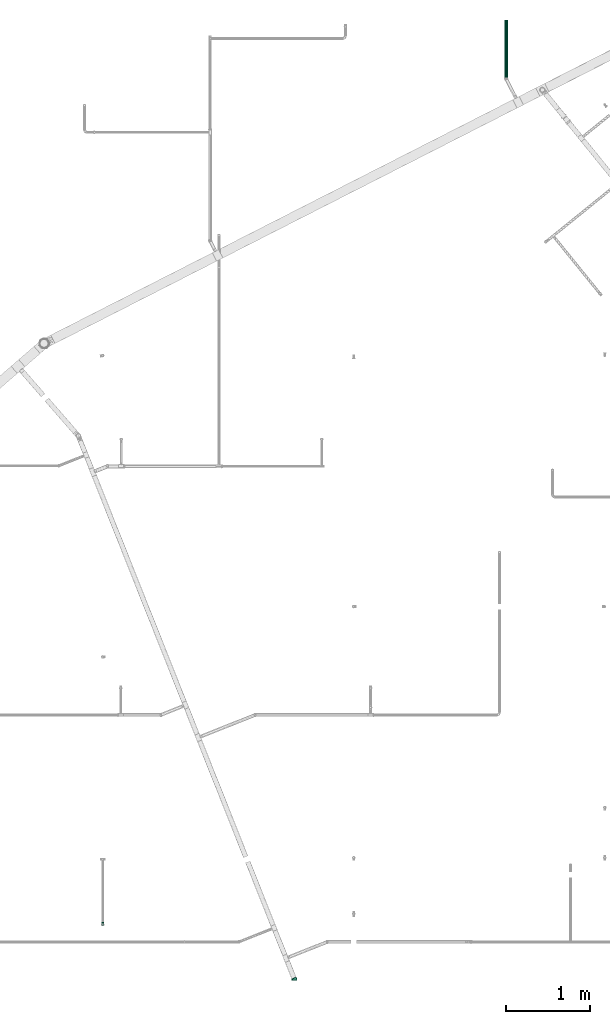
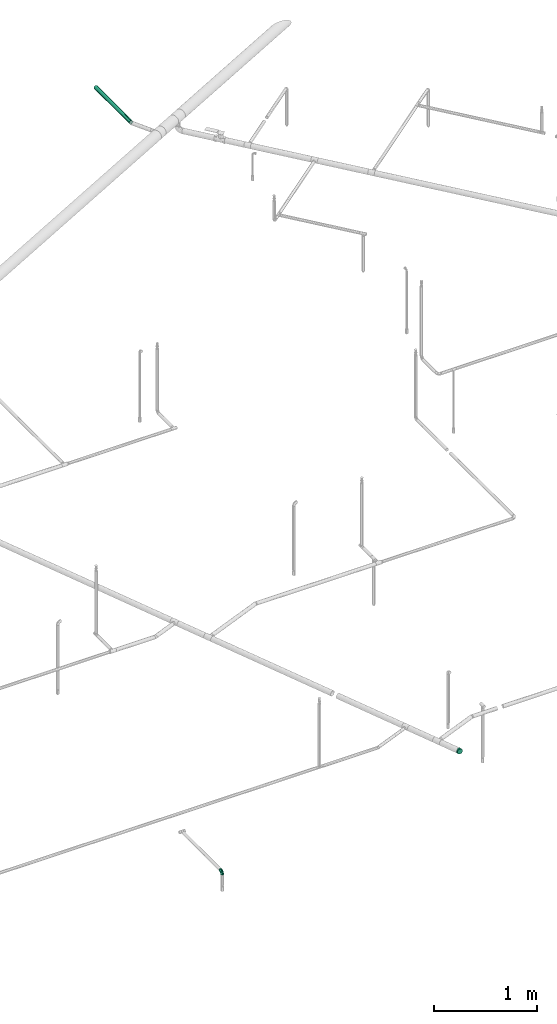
# One storey, part 92 of 94: 2 flow fittings, 1 flow segment.
"""IFC2X3 building model written with IfcOpenShell, lengths in millimetres."""

from ifc_helpers import new_model, entity, si_unit, converted_unit, derived_unit, direction, frame, origin_with_axes, place, context, subcontext, project, spatial, open_shell, faceted_brep, surface_model, source, transform, mapped, type_object, element, save


model = new_model("IFC2X3")

# Units and contexts
model_context = context("Model", 3, precision=0.01, world=frame((0.0, 4.29681676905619e-09, 0.0)), true_north=direction((4.01073788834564e-13, 1.0)))
plan_context = context("Plan", 3, precision=0.01, world=frame((0.0, 4.29681676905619e-09, 0.0)), true_north=direction((4.01073788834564e-13, 1.0)))
body_context = subcontext(model_context, "Body", "Model", "MODEL_VIEW")
ifc_project = project(units=[converted_unit("PLANEANGLEUNIT", "DEGREE", entity("IfcPositiveLengthMeasure", 0.0174532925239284), si_unit("PLANEANGLEUNIT", "RADIAN"), dimensions=[0, 0, 0, 0, 0, 0, 0]), si_unit("AREAUNIT", "SQUARE_METRE"), si_unit("LENGTHUNIT", "METRE", prefix="MILLI"), si_unit("MASSUNIT", "GRAM", prefix="KILO"), si_unit("POWERUNIT", "WATT"), si_unit("PRESSUREUNIT", "PASCAL", prefix="KILO"), si_unit("FORCEUNIT", "NEWTON", prefix="KILO"), si_unit("ELECTRICVOLTAGEUNIT", "VOLT"), si_unit("ELECTRICCURRENTUNIT", "AMPERE"), si_unit("THERMODYNAMICTEMPERATUREUNIT", "DEGREE_CELSIUS"), si_unit("TIMEUNIT", "SECOND"), si_unit("VOLUMEUNIT", "CUBIC_METRE"), derived_unit("LINEARVELOCITYUNIT", [(si_unit("LENGTHUNIT", "METRE"), 1), (si_unit("TIMEUNIT", "SECOND"), -1)]), derived_unit("VOLUMETRICFLOWRATEUNIT", [(si_unit("VOLUMEUNIT", "CUBIC_METRE"), 1), (si_unit("TIMEUNIT", "SECOND"), -1)]), derived_unit("THERMALTRANSMITTANCEUNIT", [(si_unit("POWERUNIT", "WATT"), 1), (si_unit("THERMODYNAMICTEMPERATUREUNIT", "KELVIN"), -1), (si_unit("AREAUNIT", "SQUARE_METRE"), -1)]), derived_unit("SOUNDPRESSUREUNIT", [(si_unit("PRESSUREUNIT", "PASCAL"), 1)])], contexts=[model_context, plan_context])

# Site, building, storey
site_placement = place(None, frame((0.0, -4.29681676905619e-09, 0.0), z_axis=(0.0, 0.0, 1.0), x_axis=(1.0, 0.0, 0.0)))
site = spatial("IfcSite", under=ifc_project, at=site_placement, CompositionType="ELEMENT")
building_placement = place(site_placement, frame((0.0, 4.29681676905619e-09, 0.0), z_axis=(0.0, 0.0, 1.0), x_axis=(1.0, 0.0, 0.0)))
building = spatial("IfcBuilding", under=site, at=building_placement, Name="mc-building", CompositionType="ELEMENT")
storey_placement = place(building_placement, frame((0.0, 0.0, 210900.0), z_axis=(0.0, 0.0, 1.0), x_axis=(1.0, 0.0, 0.0)))
storey = spatial("IfcBuildingStorey", under=building, at=storey_placement, Name="Nivå F", CompositionType="ELEMENT", Elevation=210900.0)

# Flow fittings
pipe_fitting_type = type_object("IfcPipeFittingType", Name="magi_pipe_fe_elbow_short_001", PredefinedType="BEND")
shared_shape_1 = source(origin_with_axes(), body_context, "Body", "SurfaceModel", [
    surface_model("IfcShellBasedSurfaceModel", [(-11.56663, 15.1, -26.15397), (-11.56663, 7.81634, -29.17096), (-11.56663, 0.0, -30.2), (-11.56663, -29.17096, -7.81634), (-11.56663, -21.35462, 21.35462), (-11.56663, 29.17096, -7.81634), (-11.56663, 26.15397, -15.1), (-11.56663, 21.35462, -21.35462), (-11.56663, -15.1, -26.15397), (-11.56663, -21.35462, -21.35462), (-11.56663, -7.81634, -29.17096), (-11.56663, -26.15397, -15.1), (-11.56663, -30.2, 0.0), (-11.56663, -29.17096, 7.81634), (-11.56663, 30.2, 0.0), (-11.56663, 29.17096, 7.81634), (-11.56663, 26.15397, 15.1), (-11.56663, 7.81634, 29.17096), (-11.56663, 15.1, 26.15397), (-11.56663, 21.35462, 21.35462), (-11.56663, -26.15397, 15.1), (-11.56663, -7.81634, 29.17096), (-11.56663, 0.0, 30.2), (-11.56663, -15.1, 26.15397), (10.74829, 4.27332, -30.2), (7.86053, 11.53665, -29.17096), (5.16956, 18.30499, -26.15397), (20.41094, -20.03025, -15.1), (2.85877, 24.1171, -21.35462), (1.08564, 28.57688, -15.1), (-0.02899, 31.38042, -7.81634), (16.32702, -9.75835, -26.15397), (18.63781, -15.57046, -21.35462), (13.63605, -2.99001, -29.17096), (18.63781, -15.57046, 21.35462), (21.52557, -22.83379, -7.81634), (21.52557, -22.83379, 7.81634), (21.90575, -23.79002, 0.0), (-0.40917, 32.33666, 0.0), (-0.02899, 31.38042, 7.81634), (1.08564, 28.57688, 15.1), (7.86053, 11.53665, 29.17096), (2.85877, 24.1171, 21.35462), (5.16956, 18.30499, 26.15397), (20.41094, -20.03025, 15.1), (16.32702, -9.75835, 26.15397), (10.74829, 4.27332, 30.2), (13.63605, -2.99001, 29.17096), (3.31312, -17.30084, 23.70386), (3.21272, -22.90725, 18.05571), (5.07472, -26.49975, 11.11846), (2.03435, -10.6232, 27.75071), (0.60177, -3.14239, 29.89273), (-0.88629, 4.62811, 29.9829), (-5.88653, 30.73897, 0.0), (0.57449, -28.84288, 5.65949), (5.47368, -28.58308, 0.0), (0.60177, -3.14239, -29.89273), (2.03435, -10.6232, -27.75071), (5.47772, -22.4735, -18.05571), (5.07472, -26.49975, -11.11846), (-0.88629, 4.62811, -29.9829), (3.31312, -17.30084, -23.70386), (10.12223, -27.01448, -5.65949)], [open_shell([[[0, 1, 2]], [[2, 3, 4]], [[0, 5, 6]], [[7, 0, 6]], [[2, 4, 0]], [[8, 9, 10]], [[9, 2, 10]], [[11, 3, 9]], [[9, 3, 2]], [[12, 13, 3]], [[5, 0, 4]], [[14, 4, 15]], [[16, 15, 17]], [[17, 18, 19]], [[16, 17, 19]], [[17, 15, 4]], [[20, 4, 13]], [[13, 4, 3]], [[21, 22, 23]], [[17, 4, 23]], [[17, 23, 22]], [[14, 5, 4]], [[24, 25, 26]], [[27, 24, 26]], [[28, 29, 30]], [[28, 30, 26]], [[27, 26, 30]], [[31, 27, 32]], [[27, 31, 33]], [[24, 27, 33]], [[27, 34, 35]], [[35, 36, 37]], [[34, 27, 30]], [[38, 39, 40]], [[38, 40, 41]], [[42, 43, 41]], [[42, 41, 40]], [[38, 41, 34]], [[36, 34, 44]], [[35, 34, 36]], [[45, 46, 47]], [[45, 34, 41]], [[46, 45, 41]], [[34, 30, 38]], [[48, 4, 49]], [[23, 4, 48]], [[4, 20, 49]], [[36, 44, 50]], [[20, 50, 49]], [[21, 23, 51]], [[48, 51, 23]], [[22, 21, 52]], [[22, 53, 17]], [[44, 49, 50]], [[50, 20, 13]], [[34, 45, 48]], [[16, 19, 40]], [[18, 42, 19]], [[47, 46, 52]], [[51, 52, 21]], [[46, 41, 53]], [[54, 15, 39]], [[55, 50, 13]], [[54, 14, 15]], [[39, 15, 16]], [[12, 55, 13]], [[43, 18, 17]], [[52, 53, 22]], [[12, 56, 55]], [[45, 47, 51]], [[52, 51, 47]], [[45, 51, 48]], [[53, 52, 46]], [[34, 48, 49]], [[34, 49, 44]], [[56, 37, 36]], [[40, 39, 16]], [[38, 54, 39]], [[43, 17, 41]], [[18, 43, 42]], [[40, 19, 42]], [[17, 53, 41]], [[36, 50, 55]], [[36, 55, 56]], [[2, 57, 10]], [[58, 57, 33]], [[11, 59, 60]], [[2, 1, 61]], [[28, 7, 6]], [[62, 58, 31]], [[7, 28, 0]], [[63, 60, 35]], [[5, 30, 6]], [[32, 27, 59]], [[57, 61, 24]], [[0, 25, 1]], [[56, 12, 3]], [[3, 60, 63]], [[62, 9, 8]], [[3, 63, 56]], [[3, 11, 60]], [[11, 9, 59]], [[58, 8, 10]], [[5, 14, 54]], [[54, 38, 30]], [[58, 10, 57]], [[30, 29, 6]], [[28, 6, 29]], [[9, 62, 59]], [[0, 26, 25]], [[62, 8, 58]], [[27, 60, 59]], [[0, 28, 26]], [[57, 2, 61]], [[24, 61, 25]], [[58, 33, 31]], [[25, 61, 1]], [[37, 63, 35]], [[62, 31, 32]], [[27, 35, 60]], [[37, 56, 63]], [[32, 59, 62]], [[33, 57, 24]], [[5, 54, 30]]])]),
])
flow_fitting_1_placement = place(storey_placement, frame((721289.97794, 434750.22337, 3600.0), z_axis=(0.0, 0.0, 1.0), x_axis=(0.0, 1.0, 0.0)))
element("IfcFlowFitting", 1, at=flow_fitting_1_placement, inside=storey, type_object=pipe_fitting_type, Name="magi_pipe_fe_elbow_short_001", context=body_context, shape_type="MappedRepresentation", body=[
    mapped(shared_shape_1, transform((0.0, 0.0, 0.0), scale=1.0)),
])
shared_shape_2 = source(origin_with_axes(), body_context, "Body", "SurfaceModel", [
    surface_model("IfcShellBasedSurfaceModel", [(-33.8016, 4.37404, -16.32415), (-33.8016, 0.0, -16.9), (-33.8016, 11.9501, -11.9501), (-33.8016, 8.45, -14.63583), (-33.8016, 16.32415, -4.37404), (-33.8016, 14.63583, -8.45), (-33.8016, -14.63583, -8.45), (-33.8016, -16.32415, -4.37404), (-33.8016, -8.45, 14.63583), (-33.8016, -11.9501, -11.9501), (-33.8016, -8.45, -14.63583), (-33.8016, -4.37404, -16.32415), (-33.8016, -16.9, 0.0), (-33.8016, -16.32415, 4.37404), (-33.8016, 11.9501, 11.9501), (-33.8016, 16.32415, 4.37404), (-33.8016, 14.63583, 8.45), (-33.8016, 4.37404, 16.32415), (-33.8016, 8.45, 14.63583), (-33.8016, -14.63583, 8.45), (-33.8016, -11.9501, 11.9501), (-33.8016, -4.37404, 16.32415), (-33.8016, 0.0, 16.9), (-33.8016, 16.9, 0.0), (-4.37564, 33.80139, -16.32415), (14.63423, 33.80229, -8.45), (-0.0016, 33.8016, -16.9), (-8.4516, 33.8012, -14.63583), (16.32255, 33.80237, 4.37404), (-11.9517, 33.80103, -11.9501), (-14.63743, 33.80091, -8.45), (-16.32575, 33.80083, -4.37404), (8.4484, 33.802, -14.63583), (11.94851, 33.80217, -11.9501), (4.37244, 33.80181, -16.32415), (16.8984, 33.8024, 0.0), (16.32255, 33.80237, -4.37404), (-16.32575, 33.80083, 4.37404), (8.4484, 33.802, 14.63583), (-16.9016, 33.8008, 0.0), (-11.9517, 33.80103, 11.9501), (-14.63743, 33.80091, 8.45), (-8.4516, 33.8012, 14.63583), (-4.37564, 33.80139, 16.32415), (14.63423, 33.80229, 8.45), (11.94851, 33.80217, 11.9501), (-0.0016, 33.8016, 16.9), (4.37244, 33.80181, 16.32415), (-24.79558, -13.12948, 9.48719), (-22.19451, -9.75022, 12.59313), (-24.1003, -14.97023, 0.0), (-14.94109, -10.76264, 8.52967), (-22.46259, -14.75053, 5.27074), (14.74946, 22.46329, 5.27074), (11.92453, 13.2412, 4.33239), (13.03978, 14.39961, 0.0), (7.71323, 13.69038, 11.55887), (9.74917, 22.19497, 12.59313), (4.10088, 13.05838, 14.04013), (-24.84166, -6.39065, 15.20479), (-25.81912, -2.23878, 16.61096), (-23.66688, 2.59055, 16.8712), (-26.50568, 14.06513, 11.08155), (-24.21386, 17.66377, 7.72664), (-29.58657, 15.8696, 7.00286), (-6.17472, -7.54496, 0.0), (-13.24064, -11.92516, 4.33239), (-14.399, -13.04046, 0.0), (-17.81531, 18.87432, 11.9711), (-6.30984, 29.15246, 15.82989), (-2.3174, 25.28137, 16.85849), (-29.24055, 10.23436, 13.77056), (-1.45586, -2.8571, 7.61424), (-0.28374, 0.3494, 10.09466), (-5.74578, -4.04687, 10.41192), (-4.4122, 11.32024, 16.59408), (-8.39836, 3.10041, 15.78109), (-1.72757, 9.13126, 15.53089), (-17.40038, 24.75392, 7.64984), (-26.19398, 20.05129, 0.0), (-28.14669, 17.29661, 4.25853), (-26.05301, 6.62809, 15.96448), (-5.87435, 16.62017, 16.8697), (-12.51905, 12.51846, 16.4894), (-10.06386, 7.38553, 16.81292), (-3.01956, 3.01942, 13.81705), (-13.05818, -4.1015, 14.04013), (-16.82664, -0.15154, 16.38035), (10.76194, 14.9416, 8.52967), (13.12831, 24.7962, 9.48719), (6.38947, 24.84196, 15.20479), (2.23756, 25.81922, 16.61096), (-13.69001, -7.71387, 11.55887), (14.96909, 24.10101, 0.0), (-7.31009, 22.90078, 16.09491), (-10.68082, 26.17512, 14.00802), (-12.78419, 18.26978, 15.06064), (-13.88672, 22.45314, 12.93246), (-18.05068, 15.16532, 14.04434), (-23.11799, 20.08192, 4.02988), (-21.85121, 21.85018, 0.0), (-18.55963, 25.48301, 3.9307), (-13.95268, 26.94823, 11.03291), (-18.57221, 7.23925, 16.59757), (-16.58438, 4.1413, 16.89278), (-17.96763, 11.46746, 15.63154), (-9.84564, 17.54367, 16.1894), (0.15074, 16.82665, 16.38035), (-23.27321, 11.47213, 14.2316), (3.84753, 5.87129, 10.70501), (-8.02275, -7.54424, 7.93253), (1.00257, -2.1948, 4.57308), (5.13044, 3.0105, 5.90276), (5.24272, 1.75754, 2.53242), (8.70385, 7.05172, 3.99365), (-20.05253, 26.19303, 0.0), (8.48268, 8.76726, 7.09496), (-4.55673, -6.72098, 4.9064), (2.04956, -2.04947, 0.0), (7.54467, 6.17507, 0.0), (-26.75535, 2.1369, -16.845), (-14.62123, 24.73856, -11.27743), (-28.45425, -13.45335, -9.81893), (-26.0062, 6.63554, -15.96646), (-23.06868, 20.04587, -4.26203), (-13.80733, -4.26457, -14.17878), (-14.67612, -0.21056, -16.07387), (-6.79057, -0.28228, -13.84754), (-24.53713, 11.08102, -14.13421), (-26.72199, 14.00838, -11.05779), (10.09556, 24.4519, -12.75973), (5.83135, 21.40389, -15.03044), (6.66115, 28.54421, -15.38092), (-20.38302, 15.48735, -12.74595), (12.53167, 21.23645, -9.15359), (12.54422, 15.67724, -5.54872), (9.75179, 12.89501, -8.66325), (-15.65304, 19.64253, -13.01334), (-12.03625, 20.66566, -14.67675), (-15.62014, 15.6194, -14.83887), (-25.56713, -15.26201, 0.0), (-24.65606, -15.12934, -5.50951), (13.452, 28.45489, -9.81893), (15.12817, 24.65677, -5.50951), (-7.35614, -8.3102, -5.65566), (-15.67665, -12.54497, -5.54872), (-24.45143, -10.09672, -12.75973), (0.16507, 0.41433, -9.71711), (-5.70782, -5.33016, -8.89319), (-5.13816, -2.37049, -11.53549), (-21.23585, -12.53267, -9.15359), (0.71086, 7.93979, -14.09376), (0.20987, 14.67613, -16.07387), (3.49213, 14.42915, -14.76377), (-24.90064, -2.1309, -16.59099), (-28.54389, -6.66251, -15.38092), (-18.44526, -7.71639, -13.2697), (2.12972, 24.90075, -16.59099), (-28.64489, 17.44415, -2.89325), (1.7005, -1.28532, -5.09493), (-16.57206, 26.8199, -7.36603), (-17.69187, 27.42698, -3.76408), (-12.89455, -9.7524, -8.66325), (-5.96691, 5.96663, -15.95807), (-20.53856, 20.09352, -8.28992), (-2.13816, 26.75525, -16.845), (-6.89989, 24.58892, -16.0258), (-10.60864, 26.53262, -13.98046), (-21.40362, -5.83237, -15.03044), (2.9312, 5.89759, -11.55927), (6.89324, 12.62002, -11.82226), (5.58029, 5.95524, -8.79465), (-3.9961, 18.61896, -16.89635), (8.30985, 7.35653, -5.65566), (-9.13919, 9.86209, -16.8904), (-10.00069, 16.02214, -16.397), (-16.68625, 9.78071, -16.34207), (-27.02064, 16.61164, -7.12976), (15.2608, 25.56785, 0.0), (-18.61915, 3.99522, -16.89635), (-19.37641, 27.82549, 0.0), (-12.61969, -6.89384, -11.82226), (-18.84817, 19.14061, -10.9655)], [open_shell([[[0, 1, 2]], [[3, 0, 2]], [[4, 5, 2]], [[6, 2, 1]], [[2, 7, 8]], [[9, 6, 10]], [[1, 11, 10]], [[1, 10, 6]], [[6, 7, 2]], [[12, 13, 7]], [[4, 2, 14]], [[14, 15, 4]], [[16, 15, 14]], [[17, 18, 14]], [[2, 8, 14]], [[17, 14, 8]], [[19, 20, 13]], [[13, 20, 7]], [[21, 22, 8]], [[20, 8, 7]], [[8, 22, 17]], [[23, 4, 15]], [[24, 25, 26]], [[27, 28, 24]], [[29, 30, 31]], [[27, 29, 28]], [[28, 25, 24]], [[32, 25, 33]], [[25, 32, 34]], [[25, 35, 36]], [[25, 34, 26]], [[25, 28, 35]], [[29, 31, 28]], [[37, 38, 39]], [[40, 37, 41]], [[40, 42, 43]], [[40, 43, 37]], [[38, 37, 43]], [[44, 38, 45]], [[44, 28, 39]], [[38, 46, 47]], [[38, 44, 39]], [[46, 38, 43]], [[39, 28, 31]], [[20, 48, 49]], [[13, 12, 50]], [[51, 48, 52]], [[53, 54, 55]], [[48, 20, 19]], [[13, 52, 19]], [[56, 57, 58]], [[49, 8, 20]], [[49, 59, 8]], [[22, 60, 61]], [[62, 63, 64]], [[65, 66, 67]], [[57, 45, 38]], [[62, 68, 63]], [[43, 69, 70]], [[18, 71, 14]], [[21, 60, 22]], [[72, 73, 74]], [[75, 76, 77]], [[14, 62, 16]], [[41, 37, 78]], [[79, 23, 80]], [[64, 15, 16]], [[22, 61, 17]], [[17, 81, 18]], [[82, 83, 84]], [[74, 85, 86]], [[59, 86, 87]], [[88, 89, 57]], [[90, 38, 47]], [[44, 53, 28]], [[47, 46, 91]], [[54, 53, 88]], [[44, 89, 53]], [[92, 86, 49]], [[89, 44, 45]], [[8, 59, 21]], [[53, 55, 93]], [[93, 28, 53]], [[66, 52, 67]], [[94, 82, 70]], [[95, 96, 94]], [[97, 98, 96]], [[79, 99, 100]], [[42, 40, 95]], [[101, 100, 99]], [[68, 78, 63]], [[43, 42, 69]], [[23, 15, 80]], [[95, 94, 69]], [[78, 101, 99]], [[40, 102, 95]], [[70, 46, 43]], [[97, 95, 102]], [[13, 50, 52]], [[90, 57, 38]], [[57, 90, 58]], [[81, 17, 61]], [[103, 104, 84]], [[105, 81, 103]], [[40, 41, 102]], [[94, 96, 106]], [[94, 106, 82]], [[91, 70, 107]], [[71, 62, 14]], [[62, 108, 98]], [[86, 59, 49]], [[67, 52, 50]], [[60, 59, 87]], [[92, 49, 51]], [[86, 85, 76]], [[91, 90, 47]], [[35, 28, 93]], [[107, 77, 58]], [[107, 58, 90]], [[58, 85, 109]], [[110, 74, 92]], [[72, 74, 110]], [[66, 51, 52]], [[72, 111, 112]], [[113, 114, 112]], [[56, 88, 57]], [[52, 48, 19]], [[49, 48, 51]], [[57, 89, 45]], [[53, 89, 88]], [[103, 81, 61]], [[71, 81, 108]], [[15, 64, 80]], [[63, 78, 99]], [[39, 115, 101]], [[101, 115, 100]], [[41, 78, 102]], [[68, 102, 78]], [[97, 96, 95]], [[105, 98, 108]], [[103, 84, 83]], [[107, 70, 82]], [[76, 84, 87]], [[82, 84, 75]], [[70, 91, 46]], [[90, 91, 107]], [[59, 60, 21]], [[61, 60, 87]], [[73, 85, 74]], [[109, 112, 116]], [[103, 61, 104]], [[105, 103, 83]], [[96, 105, 83]], [[81, 105, 108]], [[96, 98, 105]], [[62, 98, 68]], [[61, 87, 104]], [[87, 84, 104]], [[86, 76, 87]], [[77, 76, 85]], [[58, 77, 85]], [[75, 77, 107]], [[82, 75, 107]], [[76, 75, 84]], [[81, 71, 18]], [[62, 71, 108]], [[95, 69, 42]], [[70, 69, 94]], [[62, 64, 16]], [[80, 63, 99]], [[63, 80, 64]], [[80, 99, 79]], [[66, 65, 117]], [[110, 66, 117]], [[112, 114, 116]], [[118, 117, 65]], [[110, 92, 51]], [[112, 111, 113]], [[119, 55, 54]], [[74, 86, 92]], [[58, 109, 56]], [[116, 56, 109]], [[66, 110, 51]], [[72, 110, 117]], [[111, 72, 117]], [[73, 112, 109]], [[117, 118, 111]], [[113, 111, 118]], [[118, 119, 113]], [[114, 119, 54]], [[119, 114, 113]], [[116, 54, 88]], [[54, 116, 114]], [[116, 88, 56]], [[112, 73, 72]], [[85, 73, 109]], [[78, 37, 101]], [[39, 101, 37]], [[102, 68, 97]], [[97, 68, 98]], [[96, 83, 106]], [[82, 106, 83]], [[0, 120, 1]], [[30, 29, 121]], [[9, 122, 6]], [[3, 123, 0]], [[100, 124, 79]], [[125, 126, 127]], [[128, 2, 129]], [[130, 131, 132]], [[128, 129, 133]], [[134, 135, 136]], [[137, 138, 139]], [[128, 3, 2]], [[67, 140, 141]], [[134, 142, 143]], [[141, 7, 6]], [[144, 65, 145]], [[146, 9, 10]], [[147, 148, 149]], [[145, 141, 150]], [[151, 152, 153]], [[154, 11, 1]], [[10, 155, 146]], [[150, 146, 156]], [[155, 10, 11]], [[143, 135, 134]], [[34, 157, 26]], [[23, 79, 158]], [[148, 159, 144]], [[160, 161, 31]], [[145, 162, 144]], [[163, 152, 151]], [[31, 30, 160]], [[121, 164, 160]], [[32, 33, 130]], [[26, 165, 24]], [[24, 165, 166]], [[142, 33, 25]], [[29, 27, 167]], [[124, 161, 164]], [[157, 34, 132]], [[155, 154, 168]], [[123, 3, 128]], [[169, 170, 171]], [[172, 157, 152]], [[24, 166, 27]], [[132, 34, 32]], [[142, 130, 33]], [[168, 154, 126]], [[136, 135, 173]], [[133, 137, 139]], [[2, 5, 129]], [[170, 131, 130]], [[25, 36, 143]], [[172, 174, 175]], [[176, 123, 128]], [[158, 177, 4]], [[135, 55, 119]], [[167, 27, 166]], [[175, 166, 172]], [[137, 167, 138]], [[122, 141, 6]], [[140, 12, 7]], [[36, 35, 178]], [[170, 130, 134]], [[152, 157, 131]], [[165, 157, 172]], [[153, 170, 151]], [[152, 163, 174]], [[168, 125, 156]], [[122, 146, 150]], [[120, 154, 1]], [[179, 174, 126]], [[179, 126, 154]], [[126, 163, 127]], [[162, 145, 150]], [[140, 7, 141]], [[36, 178, 143]], [[55, 143, 178]], [[177, 129, 5]], [[128, 133, 139]], [[176, 128, 139]], [[120, 123, 179]], [[121, 160, 30]], [[161, 100, 180]], [[166, 175, 138]], [[121, 29, 167]], [[161, 39, 31]], [[79, 124, 158]], [[124, 164, 177]], [[161, 124, 100]], [[136, 171, 170]], [[127, 163, 151]], [[147, 171, 159]], [[148, 144, 162]], [[127, 151, 169]], [[127, 181, 125]], [[129, 177, 164]], [[5, 4, 177]], [[159, 65, 144]], [[67, 141, 145]], [[143, 55, 135]], [[135, 119, 173]], [[123, 120, 0]], [[154, 120, 179]], [[157, 165, 26]], [[166, 165, 172]], [[172, 152, 174]], [[176, 139, 175]], [[126, 174, 163]], [[176, 174, 179]], [[174, 176, 175]], [[123, 176, 179]], [[150, 181, 162]], [[127, 149, 181]], [[181, 148, 162]], [[159, 148, 147]], [[171, 136, 173]], [[170, 134, 136]], [[159, 171, 173]], [[171, 147, 169]], [[169, 147, 149]], [[151, 170, 169]], [[164, 182, 129]], [[182, 121, 137]], [[181, 149, 148]], [[169, 149, 127]], [[182, 137, 133]], [[167, 137, 121]], [[166, 138, 167]], [[175, 139, 138]], [[129, 182, 133]], [[121, 182, 164]], [[161, 160, 164]], [[39, 161, 180]], [[177, 158, 124]], [[23, 158, 4]], [[130, 132, 32]], [[157, 132, 131]], [[143, 142, 25]], [[130, 142, 134]], [[154, 155, 11]], [[146, 155, 168]], [[146, 122, 9]], [[141, 122, 150]], [[152, 131, 153]], [[159, 119, 118]], [[67, 145, 65]], [[170, 153, 131]], [[119, 159, 173]], [[159, 118, 65]], [[156, 125, 181]], [[126, 125, 168]], [[150, 156, 181]], [[168, 156, 146]]])]),
])
flow_fitting_2_placement = place(storey_placement, frame((719000.0, 435400.95076, 2575.448), z_axis=(-1.0, 0.0, 0.0), x_axis=(0.0, 0.0, 1.0)))
element("IfcFlowFitting", 2, at=flow_fitting_2_placement, inside=storey, type_object=pipe_fitting_type, Name="magi_pipe_fe_elbow_short_001", context=body_context, shape_type="MappedRepresentation", body=[
    mapped(shared_shape_2, transform((0.0, 0.0, 0.0), scale=1.0)),
])

# Flow segment
pipe_segment_type = type_object("IfcPipeSegmentType", Name="Stålrør normaltykke", PredefinedType="RIGIDSEGMENT")
flow_segment_placement = place(storey_placement, frame((723820.06963, 445521.00775, 3650.0), z_axis=(0.0, 0.0, 1.0), x_axis=(0.0, 1.0, 0.0)))
element("IfcFlowSegment", 3, at=flow_segment_placement, inside=storey, type_object=pipe_segment_type, Name="Stålrør normaltykke", context=body_context, shape_type="Brep", body=[
    faceted_brep([(690.416713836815, 19.2, 0.0), (690.416713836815, 18.9083088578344, -3.33404501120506), (0.0, 18.9083088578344, -3.33404501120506), (0.0, 19.2, 0.0), (690.416713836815, 18.0420983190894, -6.56678675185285), (0.0, 18.0420983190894, -6.56678675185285), (690.416713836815, 16.6276877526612, -9.60000000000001), (0.0, 16.6276877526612, -9.60000000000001), (690.416713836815, 14.7080533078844, -12.3415221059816), (0.0, 14.7080533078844, -12.3415221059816), (690.416713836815, 12.3415221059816, -14.7080533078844), (0.0, 12.3415221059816, -14.7080533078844), (690.416713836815, 9.6, -16.6276877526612), (0.0, 9.6, -16.6276877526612), (690.416713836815, 6.56678675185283, -18.0420983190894), (0.0, 6.56678675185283, -18.0420983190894), (690.416713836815, 3.33404501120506, -18.9083088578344), (0.0, 3.33404501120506, -18.9083088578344), (690.416713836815, -3.52698278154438e-15, -19.2), (0.0, -3.52698278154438e-15, -19.2), (690.416713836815, -3.33404501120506, -18.9083088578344), (0.0, -3.33404501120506, -18.9083088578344), (690.416713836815, -6.56678675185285, -18.0420983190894), (0.0, -6.56678675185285, -18.0420983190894), (690.416713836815, -9.60000000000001, -16.6276877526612), (0.0, -9.60000000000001, -16.6276877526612), (690.416713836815, -12.3415221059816, -14.7080533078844), (0.0, -12.3415221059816, -14.7080533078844), (690.416713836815, -14.7080533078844, -12.3415221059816), (0.0, -14.7080533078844, -12.3415221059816), (690.416713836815, -16.6276877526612, -9.59999999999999), (0.0, -16.6276877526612, -9.59999999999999), (690.416713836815, -18.0420983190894, -6.56678675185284), (0.0, -18.0420983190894, -6.56678675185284), (690.416713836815, -18.9083088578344, -3.33404501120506), (0.0, -18.9083088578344, -3.33404501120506), (690.416713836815, -19.2, 2.35132185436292e-15), (0.0, -19.2, 2.35132185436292e-15), (690.416713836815, -18.9083088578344, 3.33404501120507), (0.0, -18.9083088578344, 3.33404501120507), (690.416713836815, -18.0420983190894, 6.56678675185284), (0.0, -18.0420983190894, 6.56678675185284), (690.416713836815, -16.6276877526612, 9.6), (0.0, -16.6276877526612, 9.6), (690.416713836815, -14.7080533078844, 12.3415221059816), (0.0, -14.7080533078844, 12.3415221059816), (690.416713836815, -12.3415221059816, 14.7080533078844), (0.0, -12.3415221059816, 14.7080533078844), (690.416713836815, -9.6, 16.6276877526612), (0.0, -9.6, 16.6276877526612), (690.416713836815, -6.56678675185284, 18.0420983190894), (0.0, -6.56678675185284, 18.0420983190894), (690.416713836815, -3.33404501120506, 18.9083088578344), (0.0, -3.33404501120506, 18.9083088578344), (690.416713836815, 1.17566092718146e-15, 19.2), (0.0, 1.17566092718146e-15, 19.2), (690.416713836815, 3.33404501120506, 18.9083088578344), (0.0, 3.33404501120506, 18.9083088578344), (690.416713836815, 6.56678675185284, 18.0420983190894), (0.0, 6.56678675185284, 18.0420983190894), (690.416713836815, 9.6, 16.6276877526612), (0.0, 9.6, 16.6276877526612), (690.416713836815, 12.3415221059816, 14.7080533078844), (0.0, 12.3415221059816, 14.7080533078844), (690.416713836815, 14.7080533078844, 12.3415221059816), (0.0, 14.7080533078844, 12.3415221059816), (690.416713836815, 16.6276877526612, 9.6), (0.0, 16.6276877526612, 9.6), (690.416713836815, 18.0420983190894, 6.56678675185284), (0.0, 18.0420983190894, 6.56678675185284), (690.416713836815, 18.9083088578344, 3.33404501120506), (0.0, 18.9083088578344, 3.33404501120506), (690.416713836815, 20.8779243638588, -3.68134136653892), (690.416713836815, 21.2, 0.0), (0.0, 21.2, 0.0), (0.0, 20.8779243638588, -3.68134136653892), (690.416713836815, 20.8779243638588, 3.68134136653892), (0.0, 20.8779243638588, 3.68134136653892), (690.416713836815, 19.9214835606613, 7.25082703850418), (0.0, 19.9214835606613, 7.25082703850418), (690.416713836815, 18.3597385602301, 10.6), (0.0, 18.3597385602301, 10.6), (690.416713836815, 16.2401421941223, 13.6270973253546), (0.0, 16.2401421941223, 13.6270973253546), (690.416713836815, 13.6270973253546, 16.2401421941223), (0.0, 13.6270973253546, 16.2401421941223), (690.416713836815, 10.6, 18.3597385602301), (0.0, 10.6, 18.3597385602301), (690.416713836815, 7.25082703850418, 19.9214835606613), (0.0, 7.25082703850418, 19.9214835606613), (690.416713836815, 3.68134136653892, 20.8779243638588), (0.0, 3.68134136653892, 20.8779243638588), (690.416713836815, 1.29812560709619e-15, 21.2), (0.0, 1.29812560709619e-15, 21.2), (690.416713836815, -3.68134136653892, 20.8779243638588), (0.0, -3.68134136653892, 20.8779243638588), (690.416713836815, -7.25082703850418, 19.9214835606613), (0.0, -7.25082703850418, 19.9214835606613), (690.416713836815, -10.6, 18.3597385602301), (0.0, -10.6, 18.3597385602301), (690.416713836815, -13.6270973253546, 16.2401421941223), (0.0, -13.6270973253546, 16.2401421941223), (690.416713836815, -16.2401421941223, 13.6270973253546), (0.0, -16.2401421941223, 13.6270973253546), (690.416713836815, -18.3597385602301, 10.6), (0.0, -18.3597385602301, 10.6), (690.416713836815, -19.9214835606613, 7.25082703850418), (0.0, -19.9214835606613, 7.25082703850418), (690.416713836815, -20.8779243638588, 3.68134136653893), (0.0, -20.8779243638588, 3.68134136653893), (690.416713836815, -21.2, 2.59625121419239e-15), (0.0, -21.2, 2.59625121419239e-15), (690.416713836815, -20.8779243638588, -3.68134136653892), (0.0, -20.8779243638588, -3.68134136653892), (690.416713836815, -19.9214835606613, -7.25082703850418), (0.0, -19.9214835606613, -7.25082703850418), (690.416713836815, -18.3597385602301, -10.6), (0.0, -18.3597385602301, -10.6), (690.416713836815, -16.2401421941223, -13.6270973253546), (0.0, -16.2401421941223, -13.6270973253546), (690.416713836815, -13.6270973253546, -16.2401421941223), (0.0, -13.6270973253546, -16.2401421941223), (690.416713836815, -10.6, -18.3597385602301), (0.0, -10.6, -18.3597385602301), (690.416713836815, -7.25082703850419, -19.9214835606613), (0.0, -7.25082703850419, -19.9214835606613), (690.416713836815, -3.68134136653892, -20.8779243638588), (0.0, -3.68134136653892, -20.8779243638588), (690.416713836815, -3.89437682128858e-15, -21.2), (0.0, -3.89437682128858e-15, -21.2), (690.416713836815, 3.68134136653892, -20.8779243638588), (0.0, 3.68134136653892, -20.8779243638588), (690.416713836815, 7.25082703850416, -19.9214835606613), (0.0, 7.25082703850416, -19.9214835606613), (690.416713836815, 10.6, -18.3597385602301), (0.0, 10.6, -18.3597385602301), (690.416713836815, 13.6270973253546, -16.2401421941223), (0.0, 13.6270973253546, -16.2401421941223), (690.416713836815, 16.2401421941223, -13.6270973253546), (0.0, 16.2401421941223, -13.6270973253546), (690.416713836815, 18.3597385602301, -10.6), (0.0, 18.3597385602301, -10.6), (690.416713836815, 19.9214835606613, -7.25082703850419), (0.0, 19.9214835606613, -7.25082703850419)], [[[0, 1, 2, 3]], [[1, 4, 5, 2]], [[4, 6, 7, 5]], [[6, 8, 9, 7]], [[8, 10, 11, 9]], [[10, 12, 13, 11]], [[12, 14, 15, 13]], [[14, 16, 17, 15]], [[16, 18, 19, 17]], [[18, 20, 21, 19]], [[20, 22, 23, 21]], [[22, 24, 25, 23]], [[24, 26, 27, 25]], [[26, 28, 29, 27]], [[28, 30, 31, 29]], [[30, 32, 33, 31]], [[32, 34, 35, 33]], [[34, 36, 37, 35]], [[36, 38, 39, 37]], [[38, 40, 41, 39]], [[40, 42, 43, 41]], [[42, 44, 45, 43]], [[44, 46, 47, 45]], [[46, 48, 49, 47]], [[48, 50, 51, 49]], [[50, 52, 53, 51]], [[52, 54, 55, 53]], [[54, 56, 57, 55]], [[56, 58, 59, 57]], [[58, 60, 61, 59]], [[60, 62, 63, 61]], [[62, 64, 65, 63]], [[64, 66, 67, 65]], [[66, 68, 69, 67]], [[68, 70, 71, 69]], [[70, 0, 3, 71]], [[72, 73, 74, 75]], [[73, 76, 77, 74]], [[76, 78, 79, 77]], [[78, 80, 81, 79]], [[80, 82, 83, 81]], [[82, 84, 85, 83]], [[84, 86, 87, 85]], [[86, 88, 89, 87]], [[88, 90, 91, 89]], [[90, 92, 93, 91]], [[92, 94, 95, 93]], [[94, 96, 97, 95]], [[96, 98, 99, 97]], [[98, 100, 101, 99]], [[100, 102, 103, 101]], [[102, 104, 105, 103]], [[104, 106, 107, 105]], [[106, 108, 109, 107]], [[108, 110, 111, 109]], [[110, 112, 113, 111]], [[112, 114, 115, 113]], [[114, 116, 117, 115]], [[116, 118, 119, 117]], [[118, 120, 121, 119]], [[120, 122, 123, 121]], [[122, 124, 125, 123]], [[124, 126, 127, 125]], [[126, 128, 129, 127]], [[128, 130, 131, 129]], [[130, 132, 133, 131]], [[132, 134, 135, 133]], [[134, 136, 137, 135]], [[136, 138, 139, 137]], [[138, 140, 141, 139]], [[140, 142, 143, 141]], [[142, 72, 75, 143]], [[75, 74, 77, 79, 81, 83, 85, 87, 89, 91, 93, 95, 97, 99, 101, 103, 105, 107, 109, 111, 113, 115, 117, 119, 121, 123, 125, 127, 129, 131, 133, 135, 137, 139, 141, 143], [3, 2, 5, 7, 9, 11, 13, 15, 17, 19, 21, 23, 25, 27, 29, 31, 33, 35, 37, 39, 41, 43, 45, 47, 49, 51, 53, 55, 57, 59, 61, 63, 65, 67, 69, 71]], [[142, 140, 138, 136, 134, 132, 130, 128, 126, 124, 122, 120, 118, 116, 114, 112, 110, 108, 106, 104, 102, 100, 98, 96, 94, 92, 90, 88, 86, 84, 82, 80, 78, 76, 73, 72], [70, 68, 66, 64, 62, 60, 58, 56, 54, 52, 50, 48, 46, 44, 42, 40, 38, 36, 34, 32, 30, 28, 26, 24, 22, 20, 18, 16, 14, 12, 10, 8, 6, 4, 1, 0]]], orient=[[False], [False], [False], [False], [False], [False], [False], [False], [False], [False], [False], [False], [False], [False], [False], [False], [False], [False], [False], [False], [False], [False], [False], [False], [False], [False], [False], [False], [False], [False], [False], [False], [False], [False], [False], [False], [False], [False], [False], [False], [False], [False], [False], [False], [False], [False], [False], [False], [False], [False], [False], [False], [False], [False], [False], [False], [False], [False], [False], [False], [False], [False], [False], [False], [False], [False], [False], [False], [False], [False], [False], [False], [False, False], [False, False]]),
])

save(model, "model.ifc")
